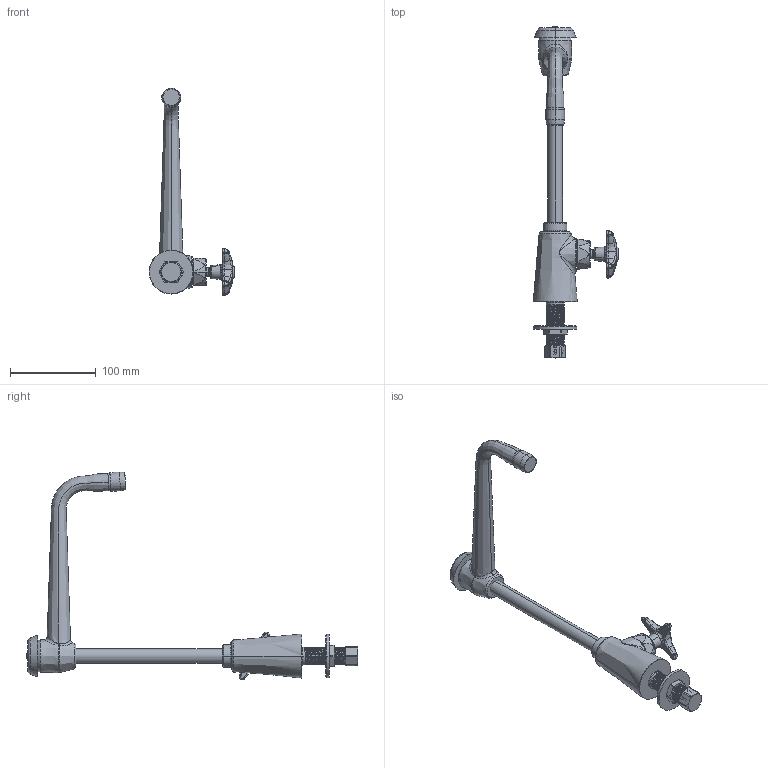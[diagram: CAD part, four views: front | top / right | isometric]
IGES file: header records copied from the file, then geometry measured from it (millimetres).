
Start section:  PTC IGES file: LWS1-C21-H.igs
Global section: file name: LWS1-C21-H.igs; native system: Creo Parametric by PTC Inc.; preprocessor: 2017260; author: usch_engrender; organization: Unknown; date: 20190828.092648; units: inch
Bounding box: 99.97 x 387.78 x 242.7 mm (x, y, z)
Surface area: 76280.4 mm2 (no closed solid volume)
Topology: 0 solids, 20 shells, 385 faces, 964 edges, 598 vertices
Faces by surface type: revolution 198, bspline 187
